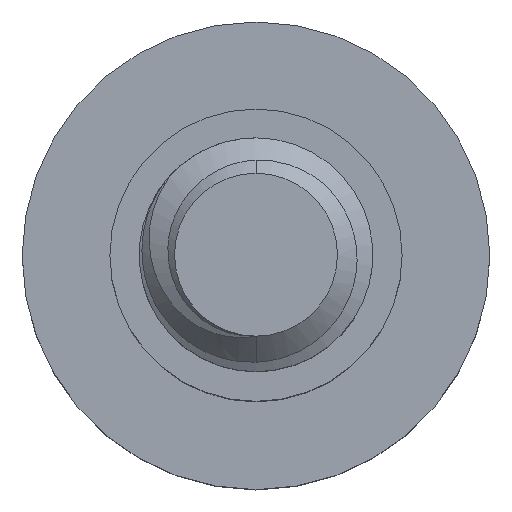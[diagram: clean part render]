
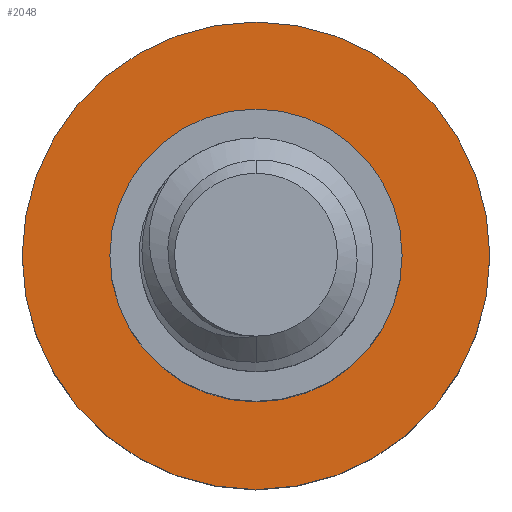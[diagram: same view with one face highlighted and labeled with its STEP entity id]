
A CAD part, top view. The second image highlights one B-rep face of the part: STEP entity #2048.
In plain terms, the highlighted planar face has unit normal (0, 0, 1).
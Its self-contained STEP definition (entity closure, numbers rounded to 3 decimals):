
#30 = CARTESIAN_POINT ( 'NONE',  ( -2.5, 0., -6. ) ) ;
#38 = CARTESIAN_POINT ( 'NONE',  ( 0., 0., -6. ) ) ;
#140 = ORIENTED_EDGE ( 'NONE', *, *, #968, .T. ) ;
#283 = ORIENTED_EDGE ( 'NONE', *, *, #1272, .F. ) ;
#319 = CIRCLE ( 'NONE', #1445, 2.5 ) ;
#321 = CARTESIAN_POINT ( 'NONE',  ( 0., 0., -6. ) ) ;
#339 = VERTEX_POINT ( 'NONE', #1554 ) ;
#343 = DIRECTION ( 'NONE',  ( 0., 0., -1. ) ) ;
#402 = AXIS2_PLACEMENT_3D ( 'NONE', #1626, #1647, #611 ) ;
#477 = FACE_BOUND ( 'NONE', #2153, .T. ) ;
#504 = DIRECTION ( 'NONE',  ( 0., 0., -1. ) ) ;
#509 = ORIENTED_EDGE ( 'NONE', *, *, #2080, .T. ) ;
#511 = DIRECTION ( 'NONE',  ( 0., 0., -1. ) ) ;
#522 = DIRECTION ( 'NONE',  ( 0., 0., -1. ) ) ;
#568 = VERTEX_POINT ( 'NONE', #1113 ) ;
#611 = DIRECTION ( 'NONE',  ( -1., 0., 0. ) ) ;
#735 = VERTEX_POINT ( 'NONE', #2052 ) ;
#768 = DIRECTION ( 'NONE',  ( -1., 0., 0. ) ) ;
#792 = AXIS2_PLACEMENT_3D ( 'NONE', #838, #522, #1148 ) ;
#838 = CARTESIAN_POINT ( 'NONE',  ( 0., 0., -6. ) ) ;
#968 = EDGE_CURVE ( 'NONE', #1822, #339, #319, .T. ) ;
#993 = DIRECTION ( 'NONE',  ( -1., 0., 0. ) ) ;
#1042 = EDGE_LOOP ( 'NONE', ( #283, #2167 ) ) ;
#1113 = CARTESIAN_POINT ( 'NONE',  ( -4., 0., -6. ) ) ;
#1148 = DIRECTION ( 'NONE',  ( -1., 0., 0. ) ) ;
#1179 = DIRECTION ( 'NONE',  ( -1., 0., 0. ) ) ;
#1272 = EDGE_CURVE ( 'NONE', #735, #568, #1636, .T. ) ;
#1358 = PLANE ( 'NONE',  #792 ) ;
#1445 = AXIS2_PLACEMENT_3D ( 'NONE', #321, #343, #993 ) ;
#1455 = EDGE_CURVE ( 'NONE', #568, #735, #1988, .T. ) ;
#1533 = CIRCLE ( 'NONE', #1602, 2.5 ) ;
#1554 = CARTESIAN_POINT ( 'NONE',  ( 2.5, 0., -6. ) ) ;
#1602 = AXIS2_PLACEMENT_3D ( 'NONE', #38, #511, #1179 ) ;
#1626 = CARTESIAN_POINT ( 'NONE',  ( 0., 0., -6. ) ) ;
#1636 = CIRCLE ( 'NONE', #2085, 4. ) ;
#1647 = DIRECTION ( 'NONE',  ( 0., 0., -1. ) ) ;
#1666 = CARTESIAN_POINT ( 'NONE',  ( 0., 0., -6. ) ) ;
#1822 = VERTEX_POINT ( 'NONE', #30 ) ;
#1988 = CIRCLE ( 'NONE', #402, 4. ) ;
#2003 = FACE_OUTER_BOUND ( 'NONE', #1042, .T. ) ;
#2048 = ADVANCED_FACE ( 'NONE', ( #477, #2003 ), #1358, .F. ) ;
#2052 = CARTESIAN_POINT ( 'NONE',  ( 4., 0., -6. ) ) ;
#2080 = EDGE_CURVE ( 'NONE', #339, #1822, #1533, .T. ) ;
#2085 = AXIS2_PLACEMENT_3D ( 'NONE', #1666, #504, #768 ) ;
#2153 = EDGE_LOOP ( 'NONE', ( #140, #509 ) ) ;
#2167 = ORIENTED_EDGE ( 'NONE', *, *, #1455, .F. ) ;
